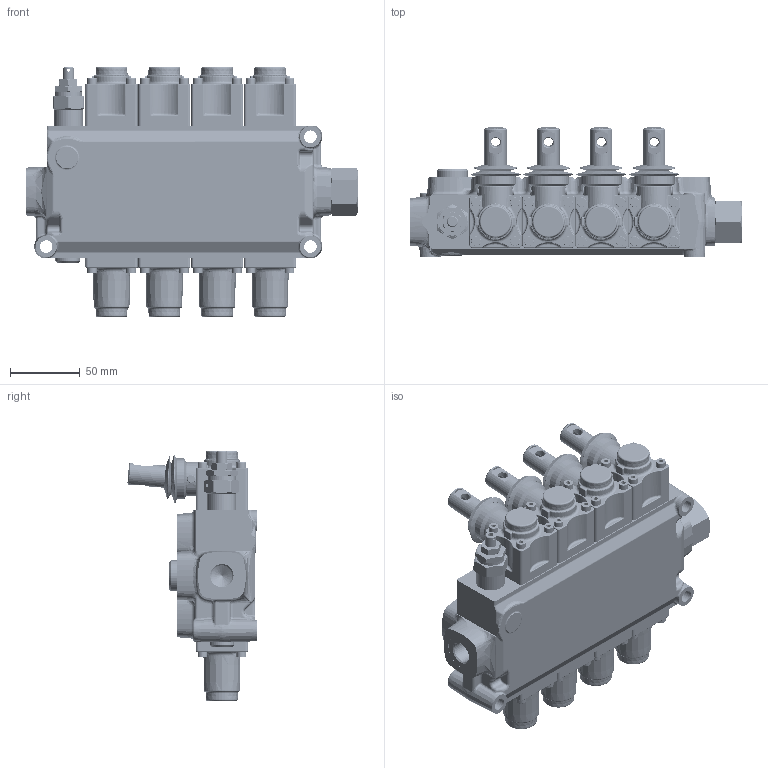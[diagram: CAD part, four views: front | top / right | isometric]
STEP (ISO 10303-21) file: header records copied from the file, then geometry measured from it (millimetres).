
FILE_DESCRIPTION (( 'STEP AP203' ), '1' );
FILE_NAME ('3D.step', '2026-06-09T08:55:01', ( 'Windows User' ), ( '' ), 'SwSTEP 2.0', 'SolidWorks 2025', '' );
FILE_SCHEMA (( 'CONFIG_CONTROL_DESIGN' ));
Length unit declared in the file: millimetre
Products named in the file (9): RDORIGINS-228505; 3D; 3XTAP722160-227901_3XTAP722160; 060002278399-320488; 5KITVRQ2500-322451; 03730M1_03-320283; Q25_00_P00-320093_RIJKERS-20260609104755_BSP38; 700035205000000-320139; 03610A1-A2_10-320319
Assembly tree (13 placements, depth 2):
  RDORIGINS-228505
  3D
    Q25_00_P00-320093_RIJKERS-20260609104755_BSP38
    700035205000000-320139
    5KITVRQ2500-322451
    3XTAP722160-227901_3XTAP722160
    03610A1-A2_10-320319  x4
    03730M1_03-320283  x4
    060002278399-320488
Bounding box: 238.69 x 92.94 x 179.5 mm (x, y, z)
Volume: 1009401.2 mm3; surface area: 257525.4 mm2
Topology: 29 solids, 78 shells, 3918 faces, 9184 edges, 5468 vertices
Faces by surface type: cylinder 1028, plane 942, torus 726, cone 601, bspline 540, sphere 81
Entity records: 85128 total; most frequent: CARTESIAN_POINT 32106, DIRECTION 10999, ORIENTED_EDGE 10940, EDGE_CURVE 5472, AXIS2_PLACEMENT_3D 4669, VERTEX_POINT 3307, CIRCLE 2681, EDGE_LOOP 2549
